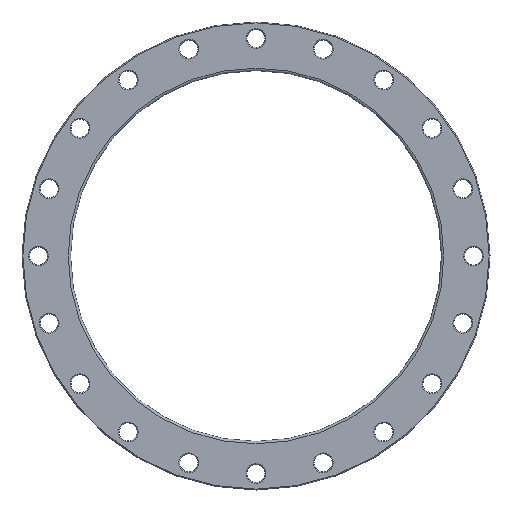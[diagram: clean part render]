
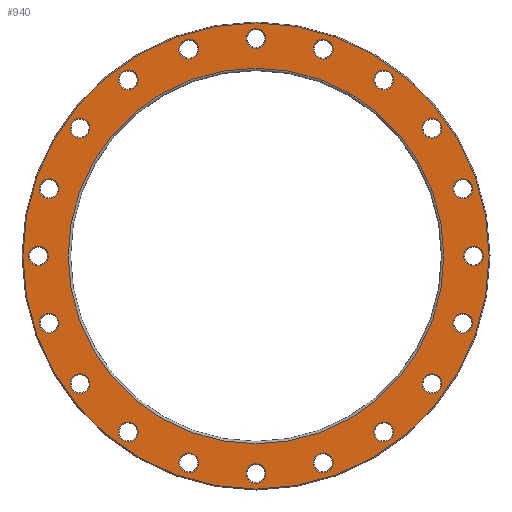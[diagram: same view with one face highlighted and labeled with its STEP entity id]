
A CAD part, front view. The second image highlights one B-rep face of the part: STEP entity #940.
In plain terms, the highlighted planar face has unit normal (0, -1, 0).
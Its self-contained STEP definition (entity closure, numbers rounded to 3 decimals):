
#23=PLANE('',#1104);
#206=ORIENTED_EDGE('',*,*,#325,.T.);
#207=ORIENTED_EDGE('',*,*,#326,.T.);
#208=ORIENTED_EDGE('',*,*,#244,.T.);
#209=ORIENTED_EDGE('',*,*,#248,.T.);
#210=ORIENTED_EDGE('',*,*,#252,.T.);
#211=ORIENTED_EDGE('',*,*,#256,.T.);
#212=ORIENTED_EDGE('',*,*,#260,.T.);
#213=ORIENTED_EDGE('',*,*,#264,.T.);
#214=ORIENTED_EDGE('',*,*,#268,.T.);
#215=ORIENTED_EDGE('',*,*,#272,.T.);
#216=ORIENTED_EDGE('',*,*,#276,.T.);
#217=ORIENTED_EDGE('',*,*,#280,.T.);
#218=ORIENTED_EDGE('',*,*,#284,.T.);
#219=ORIENTED_EDGE('',*,*,#288,.T.);
#220=ORIENTED_EDGE('',*,*,#292,.T.);
#221=ORIENTED_EDGE('',*,*,#296,.T.);
#222=ORIENTED_EDGE('',*,*,#300,.T.);
#223=ORIENTED_EDGE('',*,*,#304,.T.);
#224=ORIENTED_EDGE('',*,*,#308,.T.);
#225=ORIENTED_EDGE('',*,*,#312,.T.);
#226=ORIENTED_EDGE('',*,*,#316,.T.);
#227=ORIENTED_EDGE('',*,*,#327,.T.);
#244=EDGE_CURVE('',#332,#332,#420,.T.);
#248=EDGE_CURVE('',#336,#336,#424,.T.);
#252=EDGE_CURVE('',#340,#340,#428,.T.);
#256=EDGE_CURVE('',#344,#344,#432,.T.);
#260=EDGE_CURVE('',#348,#348,#436,.T.);
#264=EDGE_CURVE('',#352,#352,#440,.T.);
#268=EDGE_CURVE('',#356,#356,#444,.T.);
#272=EDGE_CURVE('',#360,#360,#448,.T.);
#276=EDGE_CURVE('',#364,#364,#452,.T.);
#280=EDGE_CURVE('',#368,#368,#456,.T.);
#284=EDGE_CURVE('',#372,#372,#460,.T.);
#288=EDGE_CURVE('',#376,#376,#464,.T.);
#292=EDGE_CURVE('',#380,#380,#468,.T.);
#296=EDGE_CURVE('',#384,#384,#472,.T.);
#300=EDGE_CURVE('',#388,#388,#476,.T.);
#304=EDGE_CURVE('',#392,#392,#480,.T.);
#308=EDGE_CURVE('',#396,#396,#484,.T.);
#312=EDGE_CURVE('',#400,#400,#488,.T.);
#316=EDGE_CURVE('',#404,#404,#492,.T.);
#325=EDGE_CURVE('',#413,#413,#501,.F.);
#326=EDGE_CURVE('',#414,#414,#502,.T.);
#327=EDGE_CURVE('',#415,#415,#503,.T.);
#332=VERTEX_POINT('',#1439);
#336=VERTEX_POINT('',#1450);
#340=VERTEX_POINT('',#1461);
#344=VERTEX_POINT('',#1472);
#348=VERTEX_POINT('',#1483);
#352=VERTEX_POINT('',#1494);
#356=VERTEX_POINT('',#1505);
#360=VERTEX_POINT('',#1516);
#364=VERTEX_POINT('',#1527);
#368=VERTEX_POINT('',#1538);
#372=VERTEX_POINT('',#1549);
#376=VERTEX_POINT('',#1560);
#380=VERTEX_POINT('',#1571);
#384=VERTEX_POINT('',#1582);
#388=VERTEX_POINT('',#1593);
#392=VERTEX_POINT('',#1604);
#396=VERTEX_POINT('',#1615);
#400=VERTEX_POINT('',#1626);
#404=VERTEX_POINT('',#1637);
#413=VERTEX_POINT('',#1660);
#414=VERTEX_POINT('',#1662);
#415=VERTEX_POINT('',#1664);
#420=CIRCLE('',#965,16.5);
#424=CIRCLE('',#972,16.5);
#428=CIRCLE('',#979,16.5);
#432=CIRCLE('',#986,16.5);
#436=CIRCLE('',#993,16.5);
#440=CIRCLE('',#1000,16.5);
#444=CIRCLE('',#1007,16.5);
#448=CIRCLE('',#1014,16.5);
#452=CIRCLE('',#1021,16.5);
#456=CIRCLE('',#1028,16.5);
#460=CIRCLE('',#1035,16.5);
#464=CIRCLE('',#1042,16.5);
#468=CIRCLE('',#1049,16.5);
#472=CIRCLE('',#1056,16.5);
#476=CIRCLE('',#1063,16.5);
#480=CIRCLE('',#1070,16.5);
#484=CIRCLE('',#1077,16.5);
#488=CIRCLE('',#1084,16.5);
#492=CIRCLE('',#1091,16.5);
#501=CIRCLE('',#1105,388.5);
#502=CIRCLE('',#1106,313.);
#503=CIRCLE('',#1107,16.5);
#646=EDGE_LOOP('',(#206));
#647=EDGE_LOOP('',(#207));
#648=EDGE_LOOP('',(#208));
#649=EDGE_LOOP('',(#209));
#650=EDGE_LOOP('',(#210));
#651=EDGE_LOOP('',(#211));
#652=EDGE_LOOP('',(#212));
#653=EDGE_LOOP('',(#213));
#654=EDGE_LOOP('',(#214));
#655=EDGE_LOOP('',(#215));
#656=EDGE_LOOP('',(#216));
#657=EDGE_LOOP('',(#217));
#658=EDGE_LOOP('',(#218));
#659=EDGE_LOOP('',(#219));
#660=EDGE_LOOP('',(#220));
#661=EDGE_LOOP('',(#221));
#662=EDGE_LOOP('',(#222));
#663=EDGE_LOOP('',(#223));
#664=EDGE_LOOP('',(#224));
#665=EDGE_LOOP('',(#225));
#666=EDGE_LOOP('',(#226));
#667=EDGE_LOOP('',(#227));
#822=FACE_BOUND('',#646,.T.);
#823=FACE_BOUND('',#647,.T.);
#824=FACE_BOUND('',#648,.T.);
#825=FACE_BOUND('',#649,.T.);
#826=FACE_BOUND('',#650,.T.);
#827=FACE_BOUND('',#651,.T.);
#828=FACE_BOUND('',#652,.T.);
#829=FACE_BOUND('',#653,.T.);
#830=FACE_BOUND('',#654,.T.);
#831=FACE_BOUND('',#655,.T.);
#832=FACE_BOUND('',#656,.T.);
#833=FACE_BOUND('',#657,.T.);
#834=FACE_BOUND('',#658,.T.);
#835=FACE_BOUND('',#659,.T.);
#836=FACE_BOUND('',#660,.T.);
#837=FACE_BOUND('',#661,.T.);
#838=FACE_BOUND('',#662,.T.);
#839=FACE_BOUND('',#663,.T.);
#840=FACE_BOUND('',#664,.T.);
#841=FACE_BOUND('',#665,.T.);
#842=FACE_BOUND('',#666,.T.);
#843=FACE_BOUND('',#667,.T.);
#940=ADVANCED_FACE('',(#822,#823,#824,#825,#826,#827,#828,#829,#830,#831,
#832,#833,#834,#835,#836,#837,#838,#839,#840,#841,#842,#843),#23,.F.);
#965=AXIS2_PLACEMENT_3D('',#1438,#1127,#1128);
#972=AXIS2_PLACEMENT_3D('',#1449,#1141,#1142);
#979=AXIS2_PLACEMENT_3D('',#1460,#1155,#1156);
#986=AXIS2_PLACEMENT_3D('',#1471,#1169,#1170);
#993=AXIS2_PLACEMENT_3D('',#1482,#1183,#1184);
#1000=AXIS2_PLACEMENT_3D('',#1493,#1197,#1198);
#1007=AXIS2_PLACEMENT_3D('',#1504,#1211,#1212);
#1014=AXIS2_PLACEMENT_3D('',#1515,#1225,#1226);
#1021=AXIS2_PLACEMENT_3D('',#1526,#1239,#1240);
#1028=AXIS2_PLACEMENT_3D('',#1537,#1253,#1254);
#1035=AXIS2_PLACEMENT_3D('',#1548,#1267,#1268);
#1042=AXIS2_PLACEMENT_3D('',#1559,#1281,#1282);
#1049=AXIS2_PLACEMENT_3D('',#1570,#1295,#1296);
#1056=AXIS2_PLACEMENT_3D('',#1581,#1309,#1310);
#1063=AXIS2_PLACEMENT_3D('',#1592,#1323,#1324);
#1070=AXIS2_PLACEMENT_3D('',#1603,#1337,#1338);
#1077=AXIS2_PLACEMENT_3D('',#1614,#1351,#1352);
#1084=AXIS2_PLACEMENT_3D('',#1625,#1365,#1366);
#1091=AXIS2_PLACEMENT_3D('',#1636,#1379,#1380);
#1104=AXIS2_PLACEMENT_3D('',#1658,#1405,#1406);
#1105=AXIS2_PLACEMENT_3D('',#1659,#1407,#1408);
#1106=AXIS2_PLACEMENT_3D('',#1661,#1409,#1410);
#1107=AXIS2_PLACEMENT_3D('',#1663,#1411,#1412);
#1127=DIRECTION('',(0.,1.,0.));
#1128=DIRECTION('',(0.951,0.,0.309));
#1141=DIRECTION('',(0.,1.,0.));
#1142=DIRECTION('',(0.809,0.,0.588));
#1155=DIRECTION('',(0.,1.,0.));
#1156=DIRECTION('',(0.588,0.,0.809));
#1169=DIRECTION('',(0.,1.,0.));
#1170=DIRECTION('',(0.309,0.,0.951));
#1183=DIRECTION('',(0.,1.,0.));
#1184=DIRECTION('',(0.,0.,1.));
#1197=DIRECTION('',(0.,1.,0.));
#1198=DIRECTION('',(-0.309,0.,0.951));
#1211=DIRECTION('',(0.,1.,0.));
#1212=DIRECTION('',(-0.588,0.,0.809));
#1225=DIRECTION('',(0.,1.,0.));
#1226=DIRECTION('',(-0.809,0.,0.588));
#1239=DIRECTION('',(0.,1.,0.));
#1240=DIRECTION('',(-0.951,0.,0.309));
#1253=DIRECTION('',(0.,1.,0.));
#1254=DIRECTION('',(-1.,0.,0.));
#1267=DIRECTION('',(0.,1.,0.));
#1268=DIRECTION('',(-0.951,0.,-0.309));
#1281=DIRECTION('',(0.,1.,0.));
#1282=DIRECTION('',(-0.809,0.,-0.588));
#1295=DIRECTION('',(0.,1.,0.));
#1296=DIRECTION('',(-0.588,0.,-0.809));
#1309=DIRECTION('',(0.,1.,0.));
#1310=DIRECTION('',(-0.309,0.,-0.951));
#1323=DIRECTION('',(0.,1.,0.));
#1324=DIRECTION('',(0.,0.,-1.));
#1337=DIRECTION('',(0.,1.,0.));
#1338=DIRECTION('',(0.309,0.,-0.951));
#1351=DIRECTION('',(0.,1.,0.));
#1352=DIRECTION('',(0.588,0.,-0.809));
#1365=DIRECTION('',(0.,1.,0.));
#1366=DIRECTION('',(0.809,0.,-0.588));
#1379=DIRECTION('',(0.,1.,0.));
#1380=DIRECTION('',(0.951,0.,-0.309));
#1405=DIRECTION('',(0.,1.,0.));
#1406=DIRECTION('',(0.,0.,1.));
#1407=DIRECTION('',(0.,1.,0.));
#1408=DIRECTION('',(0.,0.,1.));
#1409=DIRECTION('',(0.,1.,0.));
#1410=DIRECTION('',(0.,0.,1.));
#1411=DIRECTION('',(0.,1.,0.));
#1412=DIRECTION('',(1.,0.,0.));
#1438=CARTESIAN_POINT('',(-112.019,0.,344.758));
#1439=CARTESIAN_POINT('',(-96.326,0.,349.857));
#1449=CARTESIAN_POINT('',(-213.072,0.,293.269));
#1450=CARTESIAN_POINT('',(-199.723,0.,302.967));
#1460=CARTESIAN_POINT('',(-293.269,0.,213.072));
#1461=CARTESIAN_POINT('',(-283.57,0.,226.421));
#1471=CARTESIAN_POINT('',(-344.758,0.,112.019));
#1472=CARTESIAN_POINT('',(-339.659,0.,127.711));
#1482=CARTESIAN_POINT('',(-362.5,0.,0.));
#1483=CARTESIAN_POINT('',(-362.5,0.,16.5));
#1493=CARTESIAN_POINT('',(-344.758,0.,-112.019));
#1494=CARTESIAN_POINT('',(-349.857,0.,-96.326));
#1504=CARTESIAN_POINT('',(-293.269,0.,-213.072));
#1505=CARTESIAN_POINT('',(-302.967,0.,-199.723));
#1515=CARTESIAN_POINT('',(-213.072,0.,-293.269));
#1516=CARTESIAN_POINT('',(-226.421,0.,-283.57));
#1526=CARTESIAN_POINT('',(-112.019,0.,-344.758));
#1527=CARTESIAN_POINT('',(-127.711,0.,-339.659));
#1537=CARTESIAN_POINT('',(0.,0.,-362.5));
#1538=CARTESIAN_POINT('',(-16.5,0.,-362.5));
#1548=CARTESIAN_POINT('',(112.019,0.,-344.758));
#1549=CARTESIAN_POINT('',(96.326,0.,-349.857));
#1559=CARTESIAN_POINT('',(213.072,0.,-293.269));
#1560=CARTESIAN_POINT('',(199.723,0.,-302.967));
#1570=CARTESIAN_POINT('',(293.269,0.,-213.072));
#1571=CARTESIAN_POINT('',(283.57,0.,-226.421));
#1581=CARTESIAN_POINT('',(344.758,0.,-112.019));
#1582=CARTESIAN_POINT('',(339.659,0.,-127.711));
#1592=CARTESIAN_POINT('',(362.5,0.,0.));
#1593=CARTESIAN_POINT('',(362.5,0.,-16.5));
#1603=CARTESIAN_POINT('',(344.758,0.,112.019));
#1604=CARTESIAN_POINT('',(349.857,0.,96.326));
#1614=CARTESIAN_POINT('',(293.269,0.,213.072));
#1615=CARTESIAN_POINT('',(302.967,0.,199.723));
#1625=CARTESIAN_POINT('',(213.072,0.,293.269));
#1626=CARTESIAN_POINT('',(226.421,0.,283.57));
#1636=CARTESIAN_POINT('',(112.019,0.,344.758));
#1637=CARTESIAN_POINT('',(127.711,0.,339.659));
#1658=CARTESIAN_POINT('',(0.,0.,0.));
#1659=CARTESIAN_POINT('',(0.,0.,0.));
#1660=CARTESIAN_POINT('',(0.,0.,388.5));
#1661=CARTESIAN_POINT('',(0.,0.,0.));
#1662=CARTESIAN_POINT('',(0.,0.,313.));
#1663=CARTESIAN_POINT('',(0.,0.,362.5));
#1664=CARTESIAN_POINT('',(16.5,0.,362.5));
